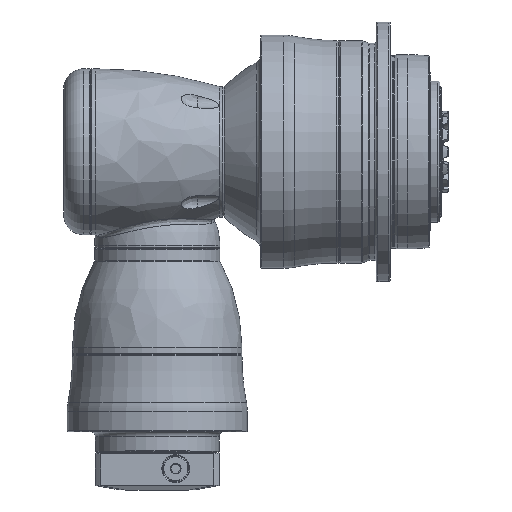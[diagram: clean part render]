
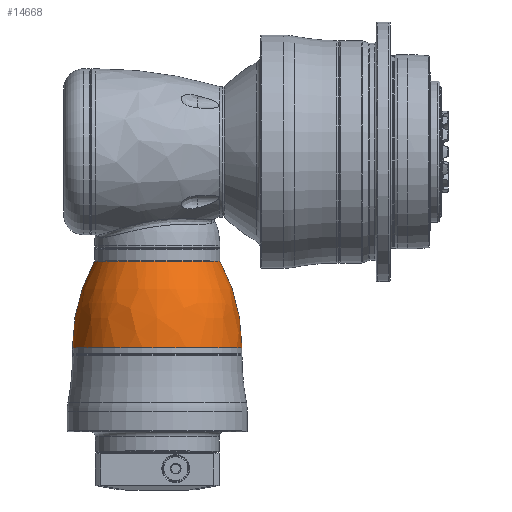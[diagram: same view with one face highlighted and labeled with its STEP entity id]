
A CAD part, top view. The second image highlights one B-rep face of the part: STEP entity #14668.
In plain terms, the highlighted free-form (B-spline) face has degree [3, 3] with [7, 4] control points.
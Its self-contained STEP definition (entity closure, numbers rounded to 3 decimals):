
#14453=CARTESIAN_POINT('',(-3.5,0.,0.));
#14454=DIRECTION('',(1.,0.,0.));
#14455=DIRECTION('',(0.,1.,0.));
#14456=AXIS2_PLACEMENT_3D('',#14453,#14454,#14455);
#14458=CARTESIAN_POINT('',(-52.388,0.,0.));
#14459=DIRECTION('',(-1.,0.,0.));
#14460=DIRECTION('',(0.,-1.,0.));
#14461=AXIS2_PLACEMENT_3D('',#14458,#14459,#14460);
#14463=CARTESIAN_POINT('',(-3.5,-54.29,0.));
#14464=DIRECTION('',(0.,0.,-1.));
#14465=DIRECTION('',(-0.478,0.878,0.));
#14466=AXIS2_PLACEMENT_3D('',#14463,#14464,#14465);
#14468=CARTESIAN_POINT('',(-3.5,54.29,0.));
#14469=DIRECTION('',(0.,0.,1.));
#14470=DIRECTION('',(-0.478,-0.878,0.));
#14471=AXIS2_PLACEMENT_3D('',#14468,#14469,#14470);
#14534=CARTESIAN_POINT('',(-3.5,48.,0.));
#14535=CARTESIAN_POINT('',(-3.5,-48.,0.));
#14536=VERTEX_POINT('',#14534);
#14537=VERTEX_POINT('',#14535);
#14538=CARTESIAN_POINT('',(-52.388,35.561,0.));
#14539=CARTESIAN_POINT('',(-52.388,-35.561,0.));
#14540=VERTEX_POINT('',#14538);
#14541=VERTEX_POINT('',#14539);
#14630=CARTESIAN_POINT('',(-2.481,-47.9,
-3.014));
#14631=CARTESIAN_POINT('',(-20.351,-48.078,
-3.025));
#14632=CARTESIAN_POINT('',(-37.67,-43.68,
-2.748));
#14633=CARTESIAN_POINT('',(-53.281,-35.,
-2.202));
#14634=CARTESIAN_POINT('',(-2.481,-49.755,
26.464));
#14635=CARTESIAN_POINT('',(-20.351,-49.939,
26.562));
#14636=CARTESIAN_POINT('',(-37.67,-45.371,
24.132));
#14637=CARTESIAN_POINT('',(-53.281,-36.355,
19.337));
#14638=CARTESIAN_POINT('',(-2.481,-29.536,
47.995));
#14639=CARTESIAN_POINT('',(-20.351,-29.646,
48.173));
#14640=CARTESIAN_POINT('',(-37.67,-26.934,
43.766));
#14641=CARTESIAN_POINT('',(-53.281,-21.581,
35.069));
#14642=CARTESIAN_POINT('',(-2.481,0.,
47.995));
#14643=CARTESIAN_POINT('',(-20.351,0.,
48.173));
#14644=CARTESIAN_POINT('',(-37.67,0.,
43.766));
#14645=CARTESIAN_POINT('',(-53.281,0.,
35.069));
#14646=CARTESIAN_POINT('',(-2.481,29.536,
47.995));
#14647=CARTESIAN_POINT('',(-20.351,29.646,
48.173));
#14648=CARTESIAN_POINT('',(-37.67,26.934,
43.766));
#14649=CARTESIAN_POINT('',(-53.281,21.581,
35.069));
#14650=CARTESIAN_POINT('',(-2.481,49.755,
26.464));
#14651=CARTESIAN_POINT('',(-20.351,49.939,
26.562));
#14652=CARTESIAN_POINT('',(-37.67,45.371,
24.132));
#14653=CARTESIAN_POINT('',(-53.281,36.355,
19.337));
#14654=CARTESIAN_POINT('',(-2.481,47.9,
-3.014));
#14655=CARTESIAN_POINT('',(-20.351,48.078,
-3.025));
#14656=CARTESIAN_POINT('',(-37.67,43.68,
-2.748));
#14657=CARTESIAN_POINT('',(-53.281,35.,
-2.202));
#14658=(BOUNDED_SURFACE()B_SPLINE_SURFACE(3,3,((#14630,#14631,#14632,#14633),(
#14634,#14635,#14636,#14637),(#14638,#14639,#14640,#14641),(#14642,#14643,
#14644,#14645),(#14646,#14647,#14648,#14649),(#14650,#14651,#14652,#14653),(
#14654,#14655,#14656,#14657)),.UNSPECIFIED.,.F.,.F.,.F.)B_SPLINE_SURFACE_WITH_KNOTS((4,3,4),(4,4),(0.,1.,2.),(0.,1.),.UNSPECIFIED.)GEOMETRIC_REPRESENTATION_ITEM()RATIONAL_B_SPLINE_SURFACE(((1.207,1.181,
1.181,1.207),(0.953,0.932,
0.932,0.953),(0.953,0.932,
0.932,0.953),(1.207,1.181,
1.181,1.207),(0.953,0.932,
0.932,0.953),(0.953,0.932,
0.932,0.953),(1.207,1.181,
1.181,1.207)))REPRESENTATION_ITEM('')SURFACE());
#14660=ORIENTED_EDGE('',*,*,#14659,.T.);
#14662=ORIENTED_EDGE('',*,*,#14661,.T.);
#14663=ORIENTED_EDGE('',*,*,#14624,.T.);
#14665=ORIENTED_EDGE('',*,*,#14664,.F.);
#14666=EDGE_LOOP('',(#14660,#14662,#14663,#14665));
#14667=FACE_OUTER_BOUND('',#14666,.F.);
#14668=ADVANCED_FACE('',(#14667),#14658,.T.);
#14457=CIRCLE('',#14456,48.);
#14462=CIRCLE('',#14461,35.561);
#14467=CIRCLE('',#14466,102.29);
#14472=CIRCLE('',#14471,102.29);
#14624=EDGE_CURVE('',#14536,#14537,#14457,.T.);
#14659=EDGE_CURVE('',#14541,#14540,#14462,.T.);
#14661=EDGE_CURVE('',#14540,#14536,#14467,.T.);
#14664=EDGE_CURVE('',#14541,#14537,#14472,.T.);
